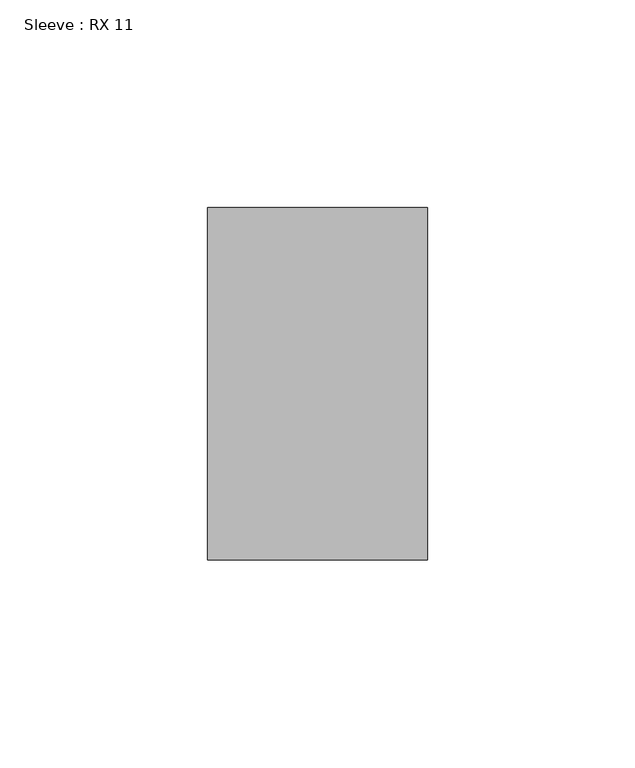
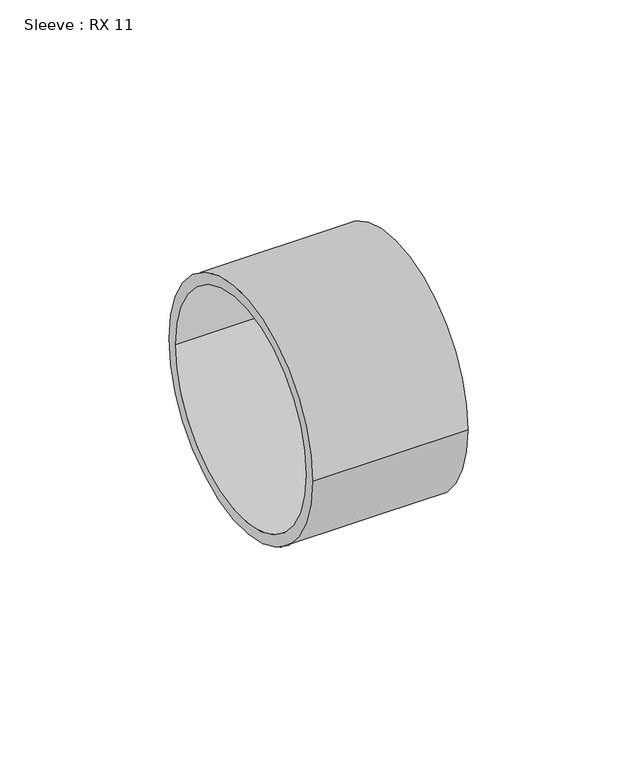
"""IFC4 building model written with IfcOpenShell, lengths in millimetres: pipe fitting geometry, Sleeve : RX 11."""

import ifcopenshell
import ifcopenshell.guid

model = None  # the IFC model being written
_history = None  # IfcOwnerHistory: only IFC2X3 demands one
_inside = {}  # id of a spatial element -> (the spatial element, [elements in it])
_under = {}  # id of a project, library or spatial element -> (it, [spatial elements below it])
_declared = {}  # id of a project -> (the project, [libraries it declares])
_typed = {}  # id of a type object -> (the type object, [elements of that type])
_made_of = {}  # id of a material, layer set ... -> (it, [elements and type objects made of it])


def new_model(schema):
    """Start an empty IFC model of exactly this schema.

    Asked for "IFC4X3", IfcOpenShell would pick the latest addendum, in which some entities
    have other attributes; the version numbers below select the first issue.
    IFC2X3 requires an IfcOwnerHistory on every rooted entity: one is made here for all.
    """
    global model, _history
    if schema == "IFC4X3":
        model = ifcopenshell.file(schema_version=(4, 3, 0, 0))
    else:
        model = ifcopenshell.file(schema=schema)
    _inside.clear()
    _under.clear()
    _declared.clear()
    _typed.clear()
    _made_of.clear()
    _history = None
    if model.schema == "IFC2X3":
        org = make("IfcOrganization", Name="unknown")
        user = make(
            "IfcPersonAndOrganization",
            ThePerson=make("IfcPerson", FamilyName="unknown"),
            TheOrganization=org,
        )
        app = make(
            "IfcApplication",
            ApplicationDeveloper=org,
            Version="unknown",
            ApplicationFullName="unknown",
            ApplicationIdentifier="unknown",
        )
        _history = make(
            "IfcOwnerHistory",
            OwningUser=user,
            OwningApplication=app,
            ChangeAction="ADDED",
            CreationDate=0,
        )
    return model


def make(cls, **values):
    """One entity of the class cls with the attributes given. An attribute that is None is left unset."""
    return model.create_entity(
        cls, **{name: value for name, value in values.items() if value is not None}
    )


def rooted(cls, **values):
    """An entity with a GlobalId (a new one), such as an element, a storey or a relation."""
    return make(cls, GlobalId=ifcopenshell.guid.new(), OwnerHistory=_history, **values)


def si_unit(unit_type, name, prefix=None):
    """IfcSIUnit, for example si_unit("LENGTHUNIT", "METRE", prefix="MILLI")."""
    return make("IfcSIUnit", UnitType=unit_type, Prefix=prefix, Name=name)


def assignment(units):
    """IfcUnitAssignment: the units of a project."""
    return None if units is None else make("IfcUnitAssignment", Units=units)


def point(xyz):
    """IfcCartesianPoint."""
    return None if xyz is None else make("IfcCartesianPoint", Coordinates=xyz)


def direction(xyz):
    """IfcDirection."""
    return None if xyz is None else make("IfcDirection", DirectionRatios=xyz)


def frame(location, z_axis=None, x_axis=None):
    """IfcAxis2Placement3D, a coordinate frame: its origin and axes. An axis left out is left unset."""
    return make(
        "IfcAxis2Placement3D",
        Location=point(location),
        Axis=direction(z_axis),
        RefDirection=direction(x_axis),
    )


def frame_2d(location, x_axis=None):
    """IfcAxis2Placement2D, a coordinate frame in the plane: its origin and x axis."""
    return make(
        "IfcAxis2Placement2D", Location=point(location), RefDirection=direction(x_axis)
    )


def origin():
    """The frame at (0, 0, 0) with its axes left unset."""
    return frame((0.0, 0.0, 0.0))


def origin_2d():
    """The frame at (0, 0) in the plane with its x axis left unset."""
    return frame_2d((0.0, 0.0))


def place(relative_to, where):
    """IfcLocalPlacement: puts the frame where relative to a parent placement (None: the world)."""
    return make(
        "IfcLocalPlacement", PlacementRelTo=relative_to, RelativePlacement=where
    )


def context(
    kind, dimensions, precision=None, world=None, true_north=None, identifier=None
):
    """IfcGeometricRepresentationContext, for example the 3D "Model" context."""
    return make(
        "IfcGeometricRepresentationContext",
        ContextIdentifier=identifier,
        ContextType=kind,
        CoordinateSpaceDimension=dimensions,
        Precision=precision,
        WorldCoordinateSystem=world,
        TrueNorth=true_north,
    )


def project(units=None, contexts=None):
    """IfcProject with its units and contexts."""
    return rooted(
        "IfcProject",
        Name="project",
        RepresentationContexts=contexts,
        UnitsInContext=assignment(units),
    )


def spatial(cls, under=None, at=None, **own):
    """A site, building, storey or space (cls), placed at a placement, below another one or the project."""
    s = rooted(cls, ObjectPlacement=at, **own)
    if under is not None:
        _under.setdefault(under.id(), (under, []))[1].append(s)
    return s


def circle_curve(where, radius):
    """IfcCircle in the frame where."""
    return make("IfcCircle", Position=where, Radius=radius)


def trimmed(basis, trim1, trim2, sense, master):
    """IfcTrimmedCurve: the piece of a basis curve between two trims."""
    return make(
        "IfcTrimmedCurve",
        BasisCurve=basis,
        Trim1=trim1,
        Trim2=trim2,
        SenseAgreement=sense,
        MasterRepresentation=master,
    )


def segment(curve, same_sense, transition):
    """IfcCompositeCurveSegment."""
    return make(
        "IfcCompositeCurveSegment",
        Transition=transition,
        SameSense=same_sense,
        ParentCurve=curve,
    )


def composite_curve(segments, self_intersect=None):
    """IfcCompositeCurve: segments joined end to end."""
    return make("IfcCompositeCurve", Segments=segments, SelfIntersect=self_intersect)


def outline(outer, holes=None, kind="AREA"):
    """IfcArbitraryClosedProfileDef: a profile drawn as a closed curve; with holes, ...WithVoids."""
    if holes is None:
        return make("IfcArbitraryClosedProfileDef", ProfileType=kind, OuterCurve=outer)
    return make(
        "IfcArbitraryProfileDefWithVoids",
        ProfileType=kind,
        OuterCurve=outer,
        InnerCurves=holes,
    )


def extrude(swept, where, along, depth):
    """IfcExtrudedAreaSolid: the profile swept, set in the frame where, extruded along a direction by depth."""
    return make(
        "IfcExtrudedAreaSolid",
        SweptArea=swept,
        Position=where,
        ExtrudedDirection=direction(along),
        Depth=depth,
    )


def shape(context_of_items, identifier, shape_type, items):
    """IfcShapeRepresentation: the items that make up one representation, for example the "Body"."""
    return make(
        "IfcShapeRepresentation",
        ContextOfItems=context_of_items,
        RepresentationIdentifier=identifier,
        RepresentationType=shape_type,
        Items=items,
    )


def source(mapping_origin, context_of_items, identifier, shape_type, items):
    """IfcRepresentationMap: a shape defined once, which mapped items show again and again."""
    return make(
        "IfcRepresentationMap",
        MappingOrigin=mapping_origin,
        MappedRepresentation=shape(context_of_items, identifier, shape_type, items),
    )


def transform(
    local_origin,
    x_axis=None,
    y_axis=None,
    z_axis=None,
    scale=None,
    scale2=None,
    scale3=None,
    uniform=True,
):
    """IfcCartesianTransformationOperator3D, or its non-uniform kind. x_axis, y_axis, z_axis: its Axis1, 2, 3."""
    if uniform:
        return make(
            "IfcCartesianTransformationOperator3D",
            Axis1=direction(x_axis),
            Axis2=direction(y_axis),
            LocalOrigin=point(local_origin),
            Scale=scale,
            Axis3=direction(z_axis),
        )
    return make(
        "IfcCartesianTransformationOperator3DnonUniform",
        Axis1=direction(x_axis),
        Axis2=direction(y_axis),
        LocalOrigin=point(local_origin),
        Scale=scale,
        Axis3=direction(z_axis),
        Scale2=scale2,
        Scale3=scale3,
    )


def mapped(mapping_source, mapping_target):
    """IfcMappedItem: shows the shape of a source again, moved by a transform."""
    return make(
        "IfcMappedItem", MappingSource=mapping_source, MappingTarget=mapping_target
    )


def made_of(thing, what):
    """Note that an element or type object is made of a material, layer set ...; save() writes the relation."""
    if what is not None:
        _made_of.setdefault(what.id(), (what, []))[1].append(thing)
    return thing


def element(
    cls,
    number,
    at=None,
    inside=None,
    cuts=None,
    type_object=None,
    material=None,
    context=None,
    identifier="Body",
    shape_type=None,
    held_by="IfcProductDefinitionShape",
    body=None,
    shapes=None,
    **own,
):
    """One element of the class cls, such as IfcWall. Its Tag is "e" and its number.

    at: its placement. inside: the storey or other place that contains it. cuts: it is an
    opening in that element (IfcRelVoidsElement). A single representation is given by context,
    identifier, shape_type and body (its items); several are given by shapes. held_by: the class
    of the entity that holds the representations. save() writes the other relations.
    """
    e = rooted(cls, Tag="e%d" % number, ObjectPlacement=at, **own)
    if body is not None:
        shapes = [shape(context, identifier, shape_type, body)]
    if shapes is not None:
        e.Representation = make(held_by, Representations=shapes)
    if inside is not None:
        _inside.setdefault(inside.id(), (inside, []))[1].append(e)
    if cuts is not None:
        rooted(
            "IfcRelVoidsElement", RelatingBuildingElement=cuts, RelatedOpeningElement=e
        )
    if type_object is not None:
        _typed.setdefault(type_object.id(), (type_object, []))[1].append(e)
    return made_of(e, material)


def aggregate(whole, parts):
    """IfcRelAggregates: a whole, such as a stair, and the parts it consists of."""
    return rooted("IfcRelAggregates", RelatingObject=whole, RelatedObjects=parts)


def save(model, path):
    """Write the relations noted so far, then the file.

    IfcRelAggregates (storeys below a building ...), IfcRelContainedInSpatialStructure (elements
    in a storey), IfcRelDefinesByType, IfcRelAssociatesMaterial and IfcRelDeclares: one each for
    every whole, place, type object, material and project.
    """
    for whole, parts in _under.values():
        aggregate(whole, parts)
    for where, things in _inside.values():
        rooted(
            "IfcRelContainedInSpatialStructure",
            RelatedElements=things,
            RelatingStructure=where,
        )
    for kind, things in _typed.values():
        rooted("IfcRelDefinesByType", RelatedObjects=things, RelatingType=kind)
    for what, things in _made_of.values():
        rooted("IfcRelAssociatesMaterial", RelatedObjects=things, RelatingMaterial=what)
    for by, libraries in _declared.values():
        rooted("IfcRelDeclares", RelatingContext=by, RelatedDefinitions=libraries)
    model.write(path)


def sleeve_rx_11_d7b6a074(model_context):
    return source(origin(), model_context, "Body", "SweptSolid", [
        extrude(outline(composite_curve([segment(trimmed(circle_curve(origin_2d(), 42.5), [point((-42.5, 0.0))], [point((42.5, 0.0))], False, "CARTESIAN"), True, "CONTINUOUS"), segment(trimmed(circle_curve(origin_2d(), 42.5), [point((42.5, 0.0))], [point((-42.5, 0.0))], False, "CARTESIAN"), True, "CONTINUOUS")], self_intersect=False), holes=[composite_curve([segment(trimmed(circle_curve(origin_2d(), 38.65), [point((-38.65, 0.0))], [point((38.65, 0.0))], True, "CARTESIAN"), True, "CONTINUOUS"), segment(trimmed(circle_curve(origin_2d(), 38.65), [point((38.65, 0.0))], [point((-38.65, 0.0))], True, "CARTESIAN"), True, "CONTINUOUS")], self_intersect=False)]), frame((0.0, 0.0, 0.0), z_axis=(1.0, 0.0, 0.0), x_axis=(0.0, 1.0, 0.0)), (0.0, 0.0, 1.0), 53.0),
    ])


if __name__ == "__main__":
    model = new_model("IFC4")
    model_context = context("Model", 3, world=origin())
    ifc_project = project(units=[si_unit("LENGTHUNIT", "METRE", prefix="MILLI")], contexts=[model_context])
    site = spatial("IfcSite", under=ifc_project)
    building = spatial("IfcBuilding", under=site)
    placement = place(None, origin())
    sleeve_rx_11_shape = sleeve_rx_11_d7b6a074(model_context)
    element("IfcPipeFitting", 1, ObjectType="Sleeve : RX 11", at=placement, inside=building, context=model_context, shape_type="MappedRepresentation", body=[
        mapped(sleeve_rx_11_shape, transform((0.0, 0.0, 0.0), x_axis=(1.0, 0.0, 0.0), y_axis=(0.0, 1.0, 0.0), z_axis=(0.0, 0.0, 1.0))),
    ])
    save(model, "model.ifc")
